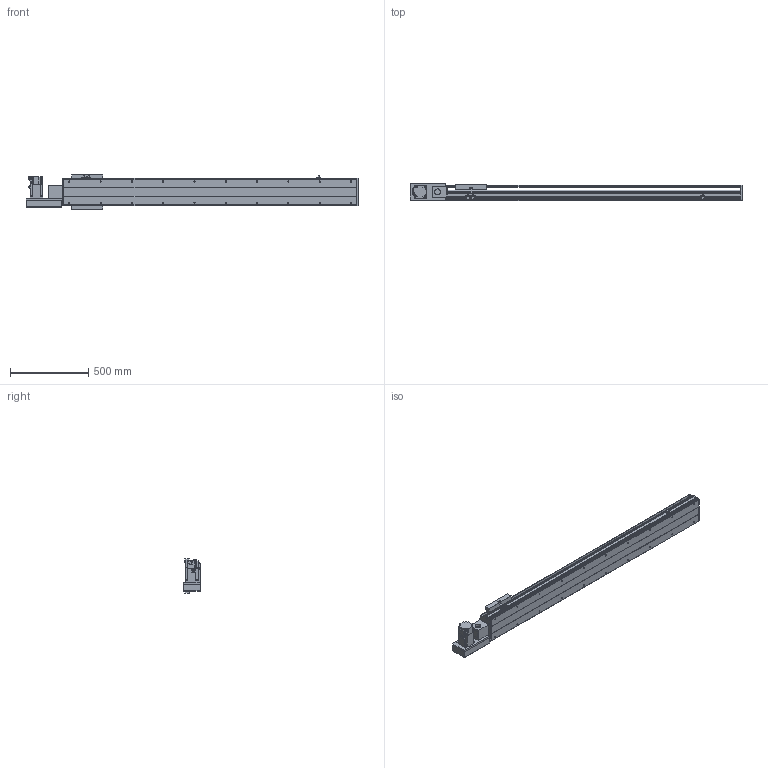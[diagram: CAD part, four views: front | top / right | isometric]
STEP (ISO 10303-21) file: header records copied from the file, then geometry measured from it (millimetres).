
FILE_DESCRIPTION(/* description */ ('STEP AP214'),/* implementation_level */ '2;1');
FILE_NAME(/* name */ 'PBS200-P40-S1500-L-T75-C1-N(0)',/* time_stamp */ '2022-06-11T07:49:21+02:00',/* author */ ('License CC BY-ND 4.0'),/* organization */ ('CADENAS'),/* preprocessor_version */ 'ST-DEVELOPER v18.102',/* originating_system */ 'PARTsolutions',/* authorisation */ ' ');
FILE_SCHEMA (('AUTOMOTIVE_DESIGN {1 0 10303 214 3 1 1}'));
Length unit declared in the file: millimetre
Products named in the file (7): PBS200-P40-S1500-L-T75-C1-N(0); PBS200_sensor; PBS200_plant; PBS200_sliser; T75-p1; PBS200T-L_motors; PBS200-S1500()_body
Assembly tree (8 placements, depth 2):
  PBS200-P40-S1500-L-T75-C1-N(0)
    PBS200_sensor  x3
    PBS200_plant
    PBS200_sliser
    T75-p1
    PBS200T-L_motors
    PBS200-S1500()_body
Bounding box: 2122 x 109 x 221 mm (x, y, z)
Volume: 14359881 mm3; surface area: 2311592.3 mm2
Topology: 8 solids, 8 shells, 932 faces, 2394 edges, 1560 vertices
Faces by surface type: plane 578, cylinder 302, cone 52
Full cylindrical faces by diameter (mm): 2.459 x6, 3.242 x4, 4.5 x6, 4.917 x4, 5 x6, 6 x7, 6.6 x8, 6.647 x24, 8 x6, 10 x4, 12 x8, 38 x2, 40 x1, 70 x1
Entity records: 24821 total; most frequent: DIRECTION 4375, CARTESIAN_POINT 4228, ORIENTED_EDGE 4006, EDGE_CURVE 2003, AXIS2_PLACEMENT_3D 1531, VERTEX_POINT 1384, LINE 1313, VECTOR 1313
